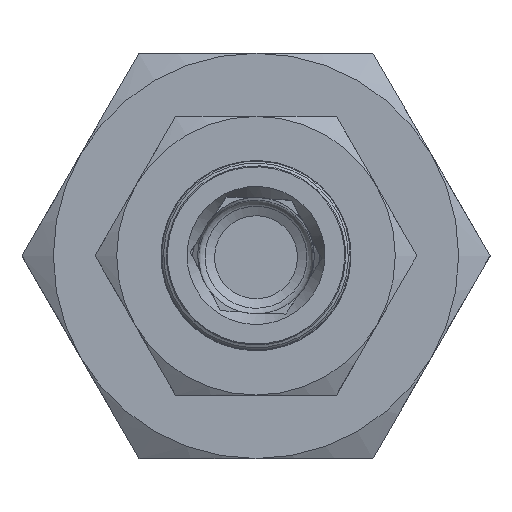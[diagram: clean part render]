
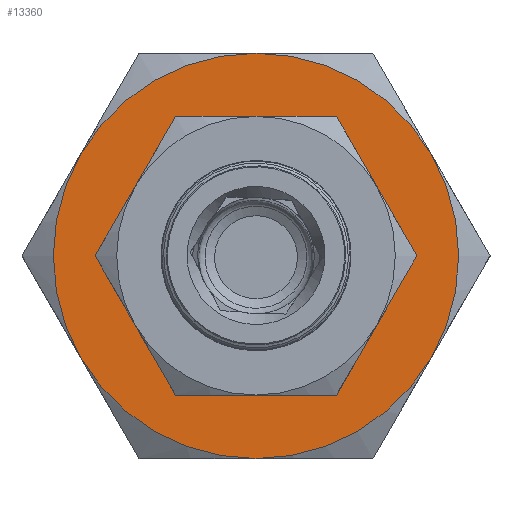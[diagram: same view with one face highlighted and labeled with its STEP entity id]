
A CAD part, top view. The second image highlights one B-rep face of the part: STEP entity #13360.
In plain terms, the highlighted planar face has unit normal (0, 0, 1).
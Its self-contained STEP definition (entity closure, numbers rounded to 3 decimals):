
#393 = EDGE_CURVE ( 'NONE', #2112, #1155, #4295, .T. ) ;
#405 = ORIENTED_EDGE ( 'NONE', *, *, #393, .F. ) ;
#434 = AXIS2_PLACEMENT_3D ( 'NONE', #7280, #9715, #8322 ) ;
#961 = DIRECTION ( 'NONE',  ( 0., 0., -1. ) ) ;
#1155 = VERTEX_POINT ( 'NONE', #6573 ) ;
#1286 = PLANE ( 'NONE',  #434 ) ;
#1809 = DIRECTION ( 'NONE',  ( -1., 0., 0. ) ) ;
#2112 = VERTEX_POINT ( 'NONE', #10564 ) ;
#2471 = CIRCLE ( 'NONE', #11987, 16. ) ;
#3017 = DIRECTION ( 'NONE',  ( 0., 0., -1. ) ) ;
#3129 = CIRCLE ( 'NONE', #4826, 7.5 ) ;
#3183 = ORIENTED_EDGE ( 'NONE', *, *, #13294, .F. ) ;
#3366 = CIRCLE ( 'NONE', #9187, 16. ) ;
#3436 = CARTESIAN_POINT ( 'NONE',  ( 13.856, 8., 6.5 ) ) ;
#4222 = AXIS2_PLACEMENT_3D ( 'NONE', #12255, #3017, #14427 ) ;
#4287 = DIRECTION ( 'NONE',  ( 0., 0., -1. ) ) ;
#4295 = CIRCLE ( 'NONE', #9133, 16. ) ;
#4430 = DIRECTION ( 'NONE',  ( 0., 0., -1. ) ) ;
#4498 = DIRECTION ( 'NONE',  ( -1., 0., 0. ) ) ;
#4826 = AXIS2_PLACEMENT_3D ( 'NONE', #7779, #961, #1809 ) ;
#4859 = ORIENTED_EDGE ( 'NONE', *, *, #8026, .F. ) ;
#5646 = DIRECTION ( 'NONE',  ( 0., 0., -1. ) ) ;
#5936 = EDGE_CURVE ( 'NONE', #13657, #11991, #2471, .T. ) ;
#6422 = EDGE_CURVE ( 'NONE', #10491, #13657, #14169, .T. ) ;
#6483 = AXIS2_PLACEMENT_3D ( 'NONE', #7781, #4287, #4498 ) ;
#6573 = CARTESIAN_POINT ( 'NONE',  ( -13.856, -8., 6.5 ) ) ;
#6659 = DIRECTION ( 'NONE',  ( -1., 0., 0. ) ) ;
#6820 = AXIS2_PLACEMENT_3D ( 'NONE', #13429, #7595, #12040 ) ;
#7095 = CARTESIAN_POINT ( 'NONE',  ( 0., 0., 6.5 ) ) ;
#7280 = CARTESIAN_POINT ( 'NONE',  ( 18.475, 0., 6.5 ) ) ;
#7595 = DIRECTION ( 'NONE',  ( 0., 0., -1. ) ) ;
#7779 = CARTESIAN_POINT ( 'NONE',  ( 0., 0., 6.5 ) ) ;
#7781 = CARTESIAN_POINT ( 'NONE',  ( 0., 0., 6.5 ) ) ;
#8026 = EDGE_CURVE ( 'NONE', #1155, #14525, #11585, .T. ) ;
#8051 = EDGE_LOOP ( 'NONE', ( #10716, #4859, #405, #3183, #9573, #13540 ) ) ;
#8059 = VERTEX_POINT ( 'NONE', #10236 ) ;
#8246 = FACE_BOUND ( 'NONE', #9262, .T. ) ;
#8322 = DIRECTION ( 'NONE',  ( -1., 0., 0. ) ) ;
#9133 = AXIS2_PLACEMENT_3D ( 'NONE', #12452, #4430, #6659 ) ;
#9187 = AXIS2_PLACEMENT_3D ( 'NONE', #11937, #9553, #12936 ) ;
#9262 = EDGE_LOOP ( 'NONE', ( #9875 ) ) ;
#9553 = DIRECTION ( 'NONE',  ( 0., 0., -1. ) ) ;
#9573 = ORIENTED_EDGE ( 'NONE', *, *, #5936, .F. ) ;
#9632 = FACE_OUTER_BOUND ( 'NONE', #8051, .T. ) ;
#9715 = DIRECTION ( 'NONE',  ( 0., 0., -1. ) ) ;
#9731 = CIRCLE ( 'NONE', #6820, 16. ) ;
#9875 = ORIENTED_EDGE ( 'NONE', *, *, #10826, .T. ) ;
#10236 = CARTESIAN_POINT ( 'NONE',  ( -7.5, 0., 6.5 ) ) ;
#10491 = VERTEX_POINT ( 'NONE', #11026 ) ;
#10564 = CARTESIAN_POINT ( 'NONE',  ( 0., -16., 6.5 ) ) ;
#10716 = ORIENTED_EDGE ( 'NONE', *, *, #14772, .F. ) ;
#10826 = EDGE_CURVE ( 'NONE', #8059, #8059, #3129, .T. ) ;
#11026 = CARTESIAN_POINT ( 'NONE',  ( 0., 16., 6.5 ) ) ;
#11585 = CIRCLE ( 'NONE', #6483, 16. ) ;
#11657 = CARTESIAN_POINT ( 'NONE',  ( 13.856, -8., 6.5 ) ) ;
#11937 = CARTESIAN_POINT ( 'NONE',  ( 0., 0., 6.5 ) ) ;
#11987 = AXIS2_PLACEMENT_3D ( 'NONE', #7095, #5646, #13801 ) ;
#11991 = VERTEX_POINT ( 'NONE', #11657 ) ;
#12040 = DIRECTION ( 'NONE',  ( -1., 0., 0. ) ) ;
#12255 = CARTESIAN_POINT ( 'NONE',  ( 0., 0., 6.5 ) ) ;
#12452 = CARTESIAN_POINT ( 'NONE',  ( 0., 0., 6.5 ) ) ;
#12794 = CARTESIAN_POINT ( 'NONE',  ( -13.856, 8., 6.5 ) ) ;
#12936 = DIRECTION ( 'NONE',  ( -1., 0., 0. ) ) ;
#13294 = EDGE_CURVE ( 'NONE', #11991, #2112, #3366, .T. ) ;
#13360 = ADVANCED_FACE ( 'NONE', ( #8246, #9632 ), #1286, .F. ) ;
#13429 = CARTESIAN_POINT ( 'NONE',  ( 0., 0., 6.5 ) ) ;
#13540 = ORIENTED_EDGE ( 'NONE', *, *, #6422, .F. ) ;
#13657 = VERTEX_POINT ( 'NONE', #3436 ) ;
#13801 = DIRECTION ( 'NONE',  ( -1., 0., 0. ) ) ;
#14169 = CIRCLE ( 'NONE', #4222, 16. ) ;
#14427 = DIRECTION ( 'NONE',  ( -1., 0., 0. ) ) ;
#14525 = VERTEX_POINT ( 'NONE', #12794 ) ;
#14772 = EDGE_CURVE ( 'NONE', #14525, #10491, #9731, .T. ) ;
